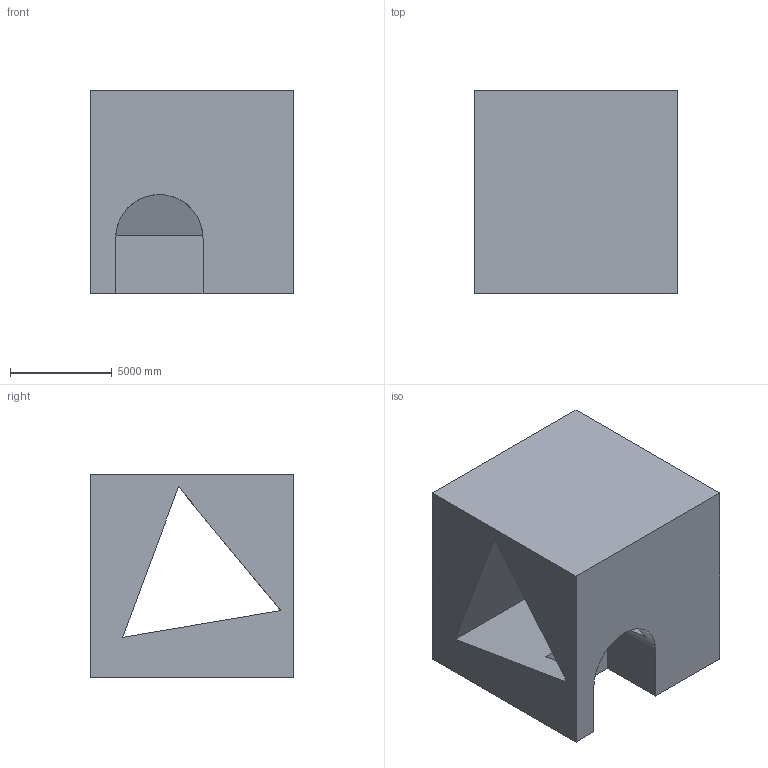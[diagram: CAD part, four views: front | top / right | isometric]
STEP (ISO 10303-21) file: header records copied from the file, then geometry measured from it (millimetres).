
FILE_DESCRIPTION (( 'STEP AP203' ), '1' );
FILE_NAME ('103.STEP', '2022-09-06T13:16:35', ( 'user' ), ( '' ), 'SwSTEP 2.0', 'SolidWorks 2021', '' );
FILE_SCHEMA (( 'CONFIG_CONTROL_DESIGN' ));
Length unit declared in the file: centimetre
Products named in the file (1): 103
Bounding box: 10000 x 10000 x 10000 mm (x, y, z)
Volume: 679679766653.3 mm3; surface area: 772885326.1 mm2
Topology: 1 solids, 1 shells, 13 faces, 39 edges, 26 vertices
Faces by surface type: plane 12, cylinder 1
Entity records: 521 total; most frequent: CARTESIAN_POINT 88, ORIENTED_EDGE 78, DIRECTION 67, EDGE_CURVE 39, VECTOR 33, LINE 33, VERTEX_POINT 26, AXIS2_PLACEMENT_3D 17
